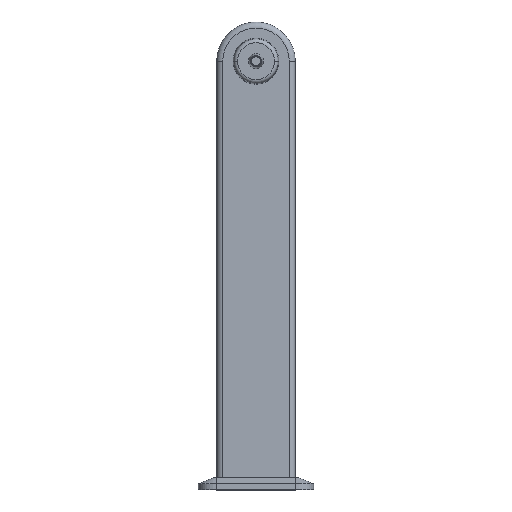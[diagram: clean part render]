
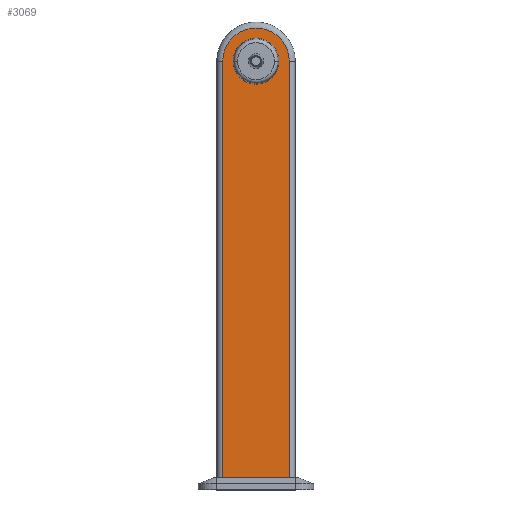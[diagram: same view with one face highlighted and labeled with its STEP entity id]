
A CAD part, top view. The second image highlights one B-rep face of the part: STEP entity #3069.
In plain terms, the highlighted planar face has unit normal (0, 0, 1).
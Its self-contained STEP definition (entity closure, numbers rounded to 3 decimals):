
#53 = DIRECTION ( 'NONE',  ( 0., 0., 1. ) ) ;
#115 = CARTESIAN_POINT ( 'NONE',  ( 55., 0., 31.25 ) ) ;
#147 = EDGE_CURVE ( 'NONE', #900, #1398, #570, .T. ) ;
#195 = ORIENTED_EDGE ( 'NONE', *, *, #2560, .T. ) ;
#215 = VERTEX_POINT ( 'NONE', #115 ) ;
#255 = VERTEX_POINT ( 'NONE', #586 ) ;
#266 = EDGE_CURVE ( 'NONE', #1200, #2269, #2914, .T. ) ;
#272 = PLANE ( 'NONE',  #2239 ) ;
#281 = CARTESIAN_POINT ( 'NONE',  ( 0., 0., 31.25 ) ) ;
#304 = CARTESIAN_POINT ( 'NONE',  ( 0., 0., 31.25 ) ) ;
#335 = DIRECTION ( 'NONE',  ( 1., 0., 0. ) ) ;
#342 = DIRECTION ( 'NONE',  ( 0., 0., 1. ) ) ;
#450 = CARTESIAN_POINT ( 'NONE',  ( 55., 0., 31.25 ) ) ;
#540 = DIRECTION ( 'NONE',  ( 1., 0., 0. ) ) ;
#553 = AXIS2_PLACEMENT_3D ( 'NONE', #1575, #53, #1811 ) ;
#570 = CIRCLE ( 'NONE', #1516, 38. ) ;
#586 = CARTESIAN_POINT ( 'NONE',  ( -55., 0., 31.25 ) ) ;
#596 = AXIS2_PLACEMENT_3D ( 'NONE', #2837, #1416, #3065 ) ;
#602 = EDGE_CURVE ( 'NONE', #2269, #215, #2030, .T. ) ;
#671 = CARTESIAN_POINT ( 'NONE',  ( 0., -690., 31.25 ) ) ;
#900 = VERTEX_POINT ( 'NONE', #2995 ) ;
#1026 = DIRECTION ( 'NONE',  ( 0., -1., 0. ) ) ;
#1028 = DIRECTION ( 'NONE',  ( 1., 0., 0. ) ) ;
#1072 = EDGE_CURVE ( 'NONE', #1398, #900, #2578, .T. ) ;
#1200 = VERTEX_POINT ( 'NONE', #1222 ) ;
#1222 = CARTESIAN_POINT ( 'NONE',  ( -55., -690., 31.25 ) ) ;
#1254 = ORIENTED_EDGE ( 'NONE', *, *, #266, .T. ) ;
#1295 = CARTESIAN_POINT ( 'NONE',  ( -38., 0., 31.25 ) ) ;
#1381 = EDGE_CURVE ( 'NONE', #255, #1200, #1838, .T. ) ;
#1398 = VERTEX_POINT ( 'NONE', #1295 ) ;
#1408 = CIRCLE ( 'NONE', #553, 55. ) ;
#1416 = DIRECTION ( 'NONE',  ( 0., 0., 1. ) ) ;
#1421 = CARTESIAN_POINT ( 'NONE',  ( 55., -690., 31.25 ) ) ;
#1468 = VECTOR ( 'NONE', #2169, 1000. ) ;
#1516 = AXIS2_PLACEMENT_3D ( 'NONE', #304, #342, #335 ) ;
#1575 = CARTESIAN_POINT ( 'NONE',  ( 0., 0., 31.25 ) ) ;
#1746 = FACE_OUTER_BOUND ( 'NONE', #2521, .T. ) ;
#1767 = VECTOR ( 'NONE', #1026, 1000. ) ;
#1811 = DIRECTION ( 'NONE',  ( 1., 0., 0. ) ) ;
#1838 = LINE ( 'NONE', #2709, #1767 ) ;
#2014 = DIRECTION ( 'NONE',  ( 0., 0., 1. ) ) ;
#2030 = LINE ( 'NONE', #450, #1468 ) ;
#2169 = DIRECTION ( 'NONE',  ( 0., 1., 0. ) ) ;
#2189 = FACE_BOUND ( 'NONE', #2945, .T. ) ;
#2239 = AXIS2_PLACEMENT_3D ( 'NONE', #281, #2014, #540 ) ;
#2269 = VERTEX_POINT ( 'NONE', #1421 ) ;
#2298 = VECTOR ( 'NONE', #1028, 1000. ) ;
#2455 = ORIENTED_EDGE ( 'NONE', *, *, #1381, .T. ) ;
#2521 = EDGE_LOOP ( 'NONE', ( #2948, #195, #2455, #1254 ) ) ;
#2525 = ORIENTED_EDGE ( 'NONE', *, *, #147, .F. ) ;
#2560 = EDGE_CURVE ( 'NONE', #215, #255, #1408, .T. ) ;
#2578 = CIRCLE ( 'NONE', #596, 38. ) ;
#2709 = CARTESIAN_POINT ( 'NONE',  ( -55., -710., 31.25 ) ) ;
#2837 = CARTESIAN_POINT ( 'NONE',  ( 0., 0., 31.25 ) ) ;
#2914 = LINE ( 'NONE', #671, #2298 ) ;
#2945 = EDGE_LOOP ( 'NONE', ( #2525, #3137 ) ) ;
#2948 = ORIENTED_EDGE ( 'NONE', *, *, #602, .T. ) ;
#2995 = CARTESIAN_POINT ( 'NONE',  ( 38., 0., 31.25 ) ) ;
#3065 = DIRECTION ( 'NONE',  ( 1., 0., 0. ) ) ;
#3069 = ADVANCED_FACE ( 'NONE', ( #1746, #2189 ), #272, .T. ) ;
#3137 = ORIENTED_EDGE ( 'NONE', *, *, #1072, .F. ) ;
